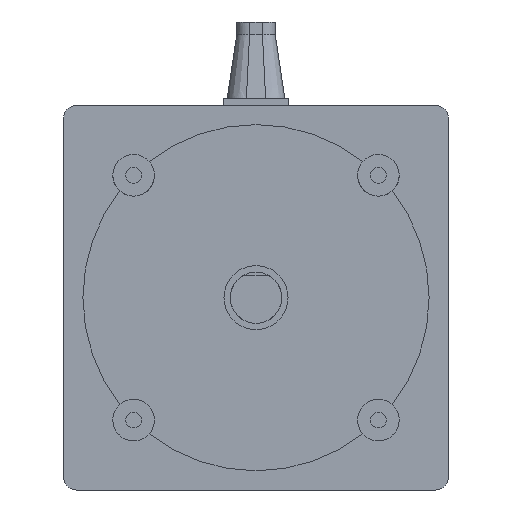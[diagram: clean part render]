
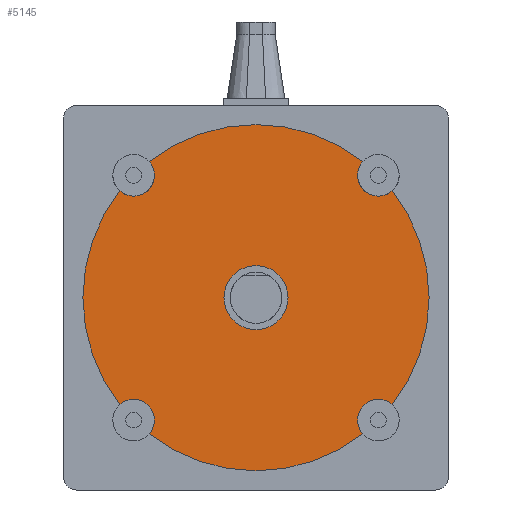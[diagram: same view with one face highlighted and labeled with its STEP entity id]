
A CAD part, front view. The second image highlights one B-rep face of the part: STEP entity #5145.
In plain terms, the highlighted planar face has unit normal (0, -1, 0).
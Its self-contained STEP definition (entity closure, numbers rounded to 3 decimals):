
#115=PLANE('',#5399);
#1110=ORIENTED_EDGE('',*,*,#2139,.T.);
#1111=ORIENTED_EDGE('',*,*,#2140,.T.);
#1112=ORIENTED_EDGE('',*,*,#2141,.T.);
#1113=ORIENTED_EDGE('',*,*,#2142,.T.);
#1114=ORIENTED_EDGE('',*,*,#2143,.T.);
#1115=ORIENTED_EDGE('',*,*,#2122,.F.);
#1116=ORIENTED_EDGE('',*,*,#2144,.T.);
#1117=ORIENTED_EDGE('',*,*,#2145,.T.);
#1118=ORIENTED_EDGE('',*,*,#2146,.T.);
#2122=EDGE_CURVE('',#2637,#2638,#2989,.F.);
#2139=EDGE_CURVE('',#2653,#2653,#3001,.F.);
#2140=EDGE_CURVE('',#2654,#2655,#3002,.T.);
#2141=EDGE_CURVE('',#2655,#2656,#3003,.F.);
#2142=EDGE_CURVE('',#2656,#2657,#3004,.T.);
#2143=EDGE_CURVE('',#2657,#2638,#3005,.F.);
#2144=EDGE_CURVE('',#2637,#2658,#3006,.F.);
#2145=EDGE_CURVE('',#2658,#2659,#3007,.T.);
#2146=EDGE_CURVE('',#2659,#2654,#3008,.F.);
#2637=VERTEX_POINT('',#6599);
#2638=VERTEX_POINT('',#6601);
#2653=VERTEX_POINT('',#6635);
#2654=VERTEX_POINT('',#6637);
#2655=VERTEX_POINT('',#6638);
#2656=VERTEX_POINT('',#6640);
#2657=VERTEX_POINT('',#6642);
#2658=VERTEX_POINT('',#6645);
#2659=VERTEX_POINT('',#6647);
#2989=CIRCLE('',#5386,27.);
#3001=CIRCLE('',#5400,5.);
#3002=CIRCLE('',#5401,27.);
#3003=CIRCLE('',#5402,3.25);
#3004=CIRCLE('',#5403,27.);
#3005=CIRCLE('',#5404,3.25);
#3006=CIRCLE('',#5405,3.25);
#3007=CIRCLE('',#5406,27.);
#3008=CIRCLE('',#5407,3.25);
#3052=EDGE_LOOP('',(#1110));
#3053=EDGE_LOOP('',(#1111,#1112,#1113,#1114,#1115,#1116,#1117,#1118));
#3338=FACE_BOUND('',#3052,.T.);
#3339=FACE_BOUND('',#3053,.T.);
#5145=ADVANCED_FACE('',(#3338,#3339),#115,.T.);
#5386=AXIS2_PLACEMENT_3D('',#6600,#5660,#5661);
#5399=AXIS2_PLACEMENT_3D('',#6633,#5691,#5692);
#5400=AXIS2_PLACEMENT_3D('',#6634,#5693,#5694);
#5401=AXIS2_PLACEMENT_3D('',#6636,#5695,#5696);
#5402=AXIS2_PLACEMENT_3D('',#6639,#5697,#5698);
#5403=AXIS2_PLACEMENT_3D('',#6641,#5699,#5700);
#5404=AXIS2_PLACEMENT_3D('',#6643,#5701,#5702);
#5405=AXIS2_PLACEMENT_3D('',#6644,#5703,#5704);
#5406=AXIS2_PLACEMENT_3D('',#6646,#5705,#5706);
#5407=AXIS2_PLACEMENT_3D('',#6648,#5707,#5708);
#5660=DIRECTION('',(0.,-1.,0.));
#5661=DIRECTION('',(0.,0.,-1.));
#5691=DIRECTION('',(0.,-1.,0.));
#5692=DIRECTION('',(0.,0.,-1.));
#5693=DIRECTION('',(0.,-1.,0.));
#5694=DIRECTION('',(0.,0.,-1.));
#5695=DIRECTION('',(0.,-1.,0.));
#5696=DIRECTION('',(0.,0.,-1.));
#5697=DIRECTION('',(0.,-1.,0.));
#5698=DIRECTION('',(0.,0.,-1.));
#5699=DIRECTION('',(0.,-1.,0.));
#5700=DIRECTION('',(0.,0.,-1.));
#5701=DIRECTION('',(0.,-1.,0.));
#5702=DIRECTION('',(0.,0.,-1.));
#5703=DIRECTION('',(0.,-1.,0.));
#5704=DIRECTION('',(0.,0.,-1.));
#5705=DIRECTION('',(0.,-1.,0.));
#5706=DIRECTION('',(0.,0.,-1.));
#5707=DIRECTION('',(0.,-1.,0.));
#5708=DIRECTION('',(0.,0.,-1.));
#6599=CARTESIAN_POINT('',(-16.66,-8.,21.248));
#6600=CARTESIAN_POINT('',(0.,-8.,0.));
#6601=CARTESIAN_POINT('',(16.66,-8.,21.248));
#6633=CARTESIAN_POINT('',(-27.324,-8.,27.324));
#6634=CARTESIAN_POINT('',(0.,-8.,0.));
#6635=CARTESIAN_POINT('',(0.,-8.,-5.));
#6636=CARTESIAN_POINT('',(0.,-8.,0.));
#6637=CARTESIAN_POINT('',(-16.66,-8.,-21.248));
#6638=CARTESIAN_POINT('',(16.66,-8.,-21.248));
#6639=CARTESIAN_POINT('',(19.092,-8.,-19.092));
#6640=CARTESIAN_POINT('',(21.248,-8.,-16.66));
#6641=CARTESIAN_POINT('',(0.,-8.,0.));
#6642=CARTESIAN_POINT('',(21.248,-8.,16.66));
#6643=CARTESIAN_POINT('',(19.092,-8.,19.092));
#6644=CARTESIAN_POINT('',(-19.092,-8.,19.092));
#6645=CARTESIAN_POINT('',(-21.248,-8.,16.66));
#6646=CARTESIAN_POINT('',(0.,-8.,0.));
#6647=CARTESIAN_POINT('',(-21.248,-8.,-16.66));
#6648=CARTESIAN_POINT('',(-19.092,-8.,-19.092));
